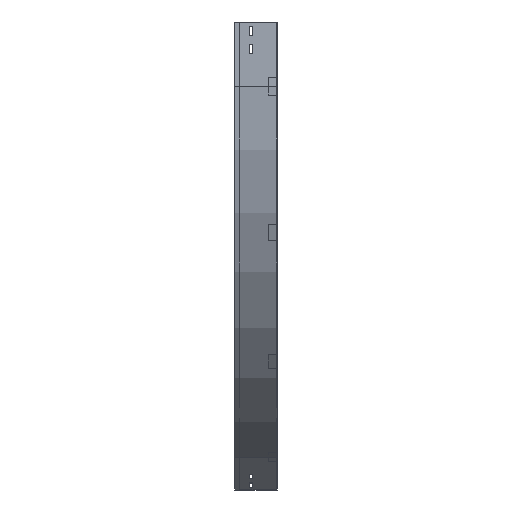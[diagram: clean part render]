
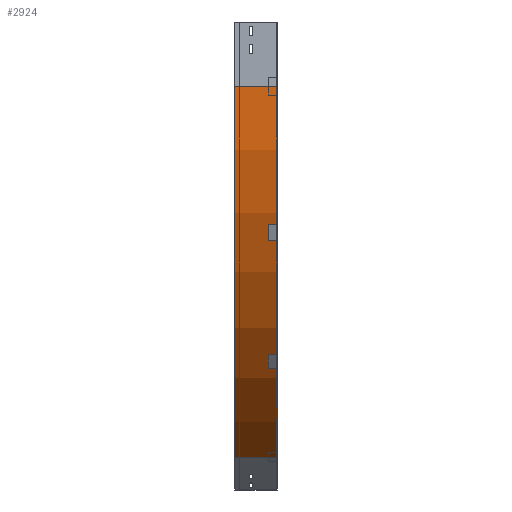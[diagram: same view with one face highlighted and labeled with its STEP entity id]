
A CAD part, left-side view. The second image highlights one B-rep face of the part: STEP entity #2924.
In plain terms, the highlighted cylindrical face has radius 1000 mm (diameter 2000 mm), a partial arc.
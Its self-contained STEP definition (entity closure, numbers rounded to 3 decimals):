
#19 = CARTESIAN_POINT ( 'NONE',  ( 500., 0., -1016.025 ) ) ;
#41 = DIRECTION ( 'NONE',  ( -1., 0., 0. ) ) ;
#159 = DIRECTION ( 'NONE',  ( 0., -1., 0. ) ) ;
#171 = ORIENTED_EDGE ( 'NONE', *, *, #639, .T. ) ;
#202 = VERTEX_POINT ( 'NONE', #694 ) ;
#203 = VECTOR ( 'NONE', #667, 1000. ) ;
#244 = CARTESIAN_POINT ( 'NONE',  ( 0., 0., -150. ) ) ;
#386 = ORIENTED_EDGE ( 'NONE', *, *, #1043, .T. ) ;
#530 = LINE ( 'NONE', #1662, #2133 ) ;
#639 = EDGE_CURVE ( 'NONE', #202, #2483, #530, .T. ) ;
#651 = ORIENTED_EDGE ( 'NONE', *, *, #3188, .F. ) ;
#667 = DIRECTION ( 'NONE',  ( 0., -1., 0. ) ) ;
#694 = CARTESIAN_POINT ( 'NONE',  ( 500., 100., -1016.025 ) ) ;
#730 = VERTEX_POINT ( 'NONE', #2699 ) ;
#798 = DIRECTION ( 'NONE',  ( 0., -1., 0. ) ) ;
#1014 = AXIS2_PLACEMENT_3D ( 'NONE', #1528, #2719, #41 ) ;
#1043 = EDGE_CURVE ( 'NONE', #730, #202, #3381, .T. ) ;
#1047 = ORIENTED_EDGE ( 'NONE', *, *, #3582, .F. ) ;
#1123 = VERTEX_POINT ( 'NONE', #244 ) ;
#1130 = DIRECTION ( 'NONE',  ( -1., 0., 0. ) ) ;
#1528 = CARTESIAN_POINT ( 'NONE',  ( 1000., 0., -150. ) ) ;
#1662 = CARTESIAN_POINT ( 'NONE',  ( 500., 0., -1016.025 ) ) ;
#1717 = CARTESIAN_POINT ( 'NONE',  ( 1000., 100., -150. ) ) ;
#1868 = CYLINDRICAL_SURFACE ( 'NONE', #2092, 1000. ) ;
#2089 = LINE ( 'NONE', #3053, #203 ) ;
#2092 = AXIS2_PLACEMENT_3D ( 'NONE', #2787, #159, #3738 ) ;
#2133 = VECTOR ( 'NONE', #798, 1000. ) ;
#2332 = CIRCLE ( 'NONE', #1014, 1000. ) ;
#2483 = VERTEX_POINT ( 'NONE', #19 ) ;
#2699 = CARTESIAN_POINT ( 'NONE',  ( 0., 100., -150. ) ) ;
#2719 = DIRECTION ( 'NONE',  ( 0., -1., 0. ) ) ;
#2787 = CARTESIAN_POINT ( 'NONE',  ( 1000., 0., -150. ) ) ;
#2914 = DIRECTION ( 'NONE',  ( 0., -1., 0. ) ) ;
#2924 = ADVANCED_FACE ( 'NONE', ( #3355 ), #1868, .T. ) ;
#3006 = AXIS2_PLACEMENT_3D ( 'NONE', #1717, #2914, #1130 ) ;
#3053 = CARTESIAN_POINT ( 'NONE',  ( 0., 0., -150. ) ) ;
#3188 = EDGE_CURVE ( 'NONE', #730, #1123, #2089, .T. ) ;
#3355 = FACE_OUTER_BOUND ( 'NONE', #3694, .T. ) ;
#3381 = CIRCLE ( 'NONE', #3006, 1000. ) ;
#3582 = EDGE_CURVE ( 'NONE', #1123, #2483, #2332, .T. ) ;
#3694 = EDGE_LOOP ( 'NONE', ( #1047, #651, #386, #171 ) ) ;
#3738 = DIRECTION ( 'NONE',  ( 0., 0., -1. ) ) ;
